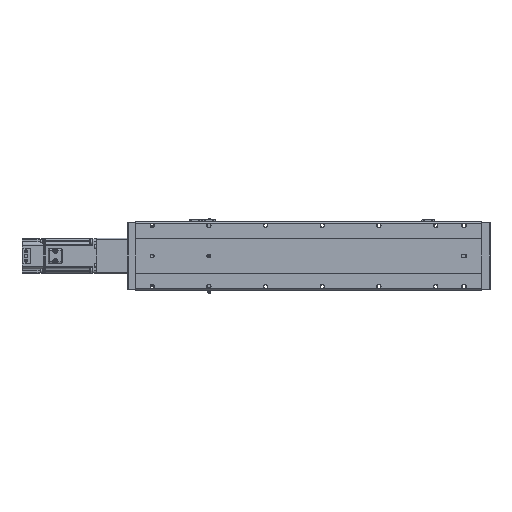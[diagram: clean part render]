
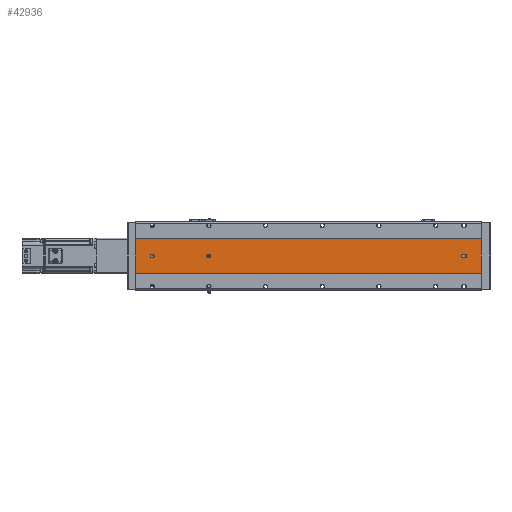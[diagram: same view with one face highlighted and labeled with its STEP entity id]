
A CAD part, front view. The second image highlights one B-rep face of the part: STEP entity #42936.
In plain terms, the highlighted planar face has unit normal (0, -1, 0).
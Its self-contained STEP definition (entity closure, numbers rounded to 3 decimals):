
#7 = CIRCLE ( 'NONE', #81715, 3.5 ) ;
#399 = VERTEX_POINT ( 'NONE', #10060 ) ;
#404 = CARTESIAN_POINT ( 'NONE',  ( -39.892, -52.848, 481. ) ) ;
#1712 = EDGE_LOOP ( 'NONE', ( #80642, #3643, #79200, #61816 ) ) ;
#1776 = CIRCLE ( 'NONE', #70148, 3.5 ) ;
#2714 = CARTESIAN_POINT ( 'NONE',  ( -36.392, -52.848, 30. ) ) ;
#3398 = VERTEX_POINT ( 'NONE', #87172 ) ;
#3643 = ORIENTED_EDGE ( 'NONE', *, *, #70327, .F. ) ;
#3672 = EDGE_CURVE ( 'NONE', #3398, #27957, #27368, .T. ) ;
#4364 = CARTESIAN_POINT ( 'NONE',  ( -69.892, -52.848, 0. ) ) ;
#4441 = EDGE_LOOP ( 'NONE', ( #32677, #26044 ) ) ;
#4488 = EDGE_CURVE ( 'NONE', #59237, #86013, #25150, .T. ) ;
#5213 = ORIENTED_EDGE ( 'NONE', *, *, #27365, .T. ) ;
#5972 = AXIS2_PLACEMENT_3D ( 'NONE', #24501, #31936, #11531 ) ;
#6841 = VECTOR ( 'NONE', #46463, 1000. ) ;
#9239 = VERTEX_POINT ( 'NONE', #48050 ) ;
#9332 = EDGE_CURVE ( 'NONE', #70112, #79529, #1776, .T. ) ;
#9807 = CARTESIAN_POINT ( 'NONE',  ( -36.392, -52.848, 611. ) ) ;
#10060 = CARTESIAN_POINT ( 'NONE',  ( -39.892, -52.848, 477.5 ) ) ;
#10399 = DIRECTION ( 'NONE',  ( 0., 0., 1. ) ) ;
#10614 = CARTESIAN_POINT ( 'NONE',  ( -43.392, -52.848, 32. ) ) ;
#11250 = VECTOR ( 'NONE', #25434, 1000. ) ;
#11328 = FACE_BOUND ( 'NONE', #69102, .T. ) ;
#11531 = DIRECTION ( 'NONE',  ( 0., 0., 1. ) ) ;
#14436 = DIRECTION ( 'NONE',  ( 0., 0., 1. ) ) ;
#14559 = CIRCLE ( 'NONE', #5972, 3.5 ) ;
#15359 = LINE ( 'NONE', #77047, #73415 ) ;
#17153 = EDGE_CURVE ( 'NONE', #59237, #27902, #15359, .T. ) ;
#18253 = ORIENTED_EDGE ( 'NONE', *, *, #3672, .T. ) ;
#18327 = DIRECTION ( 'NONE',  ( 0., 1., 0. ) ) ;
#18888 = FACE_OUTER_BOUND ( 'NONE', #1712, .T. ) ;
#21888 = VECTOR ( 'NONE', #38322, 1000. ) ;
#23364 = CARTESIAN_POINT ( 'NONE',  ( -69.892, -52.848, 0. ) ) ;
#23690 = LINE ( 'NONE', #23364, #55901 ) ;
#23733 = VERTEX_POINT ( 'NONE', #43260 ) ;
#24024 = LINE ( 'NONE', #9807, #21888 ) ;
#24201 = FACE_BOUND ( 'NONE', #4441, .T. ) ;
#24501 = CARTESIAN_POINT ( 'NONE',  ( -39.892, -52.848, 481. ) ) ;
#25150 = LINE ( 'NONE', #46192, #6841 ) ;
#25434 = DIRECTION ( 'NONE',  ( 0., 0., -1. ) ) ;
#26033 = CARTESIAN_POINT ( 'NONE',  ( -9.892, -52.848, 0. ) ) ;
#26044 = ORIENTED_EDGE ( 'NONE', *, *, #55386, .T. ) ;
#27365 = EDGE_CURVE ( 'NONE', #82463, #64780, #24024, .T. ) ;
#27368 = LINE ( 'NONE', #51556, #59495 ) ;
#27902 = VERTEX_POINT ( 'NONE', #78919 ) ;
#27957 = VERTEX_POINT ( 'NONE', #10614 ) ;
#29170 = CIRCLE ( 'NONE', #72116, 3.5 ) ;
#31393 = CARTESIAN_POINT ( 'NONE',  ( -69.892, -52.848, 611. ) ) ;
#31720 = VERTEX_POINT ( 'NONE', #26033 ) ;
#31936 = DIRECTION ( 'NONE',  ( 0., 1., 0. ) ) ;
#32677 = ORIENTED_EDGE ( 'NONE', *, *, #50895, .T. ) ;
#35791 = DIRECTION ( 'NONE',  ( 1., 0., 0. ) ) ;
#36738 = ORIENTED_EDGE ( 'NONE', *, *, #72561, .T. ) ;
#37736 = DIRECTION ( 'NONE',  ( 0., 1., 0. ) ) ;
#37757 = CARTESIAN_POINT ( 'NONE',  ( -36.392, -52.848, 32. ) ) ;
#37803 = CARTESIAN_POINT ( 'NONE',  ( -39.892, -52.848, 581. ) ) ;
#38322 = DIRECTION ( 'NONE',  ( 0., 0., -1. ) ) ;
#38956 = DIRECTION ( 'NONE',  ( 0., 0., 1. ) ) ;
#39746 = EDGE_LOOP ( 'NONE', ( #18253, #62265, #5213, #58771, #36738 ) ) ;
#41472 = AXIS2_PLACEMENT_3D ( 'NONE', #88788, #68307, #74069 ) ;
#42741 = ORIENTED_EDGE ( 'NONE', *, *, #9332, .T. ) ;
#42936 = ADVANCED_FACE ( 'NONE', ( #79102, #24201, #11328, #18888 ), #65678, .F. ) ;
#43260 = CARTESIAN_POINT ( 'NONE',  ( -39.892, -52.848, 484.5 ) ) ;
#44321 = DIRECTION ( 'NONE',  ( 1., 0., 0. ) ) ;
#44576 = EDGE_CURVE ( 'NONE', #86013, #31720, #23690, .T. ) ;
#44678 = DIRECTION ( 'NONE',  ( 0., 1., 0. ) ) ;
#45003 = DIRECTION ( 'NONE',  ( 0., 0., 1. ) ) ;
#46192 = CARTESIAN_POINT ( 'NONE',  ( -69.892, -52.848, 611. ) ) ;
#46463 = DIRECTION ( 'NONE',  ( 0., 0., -1. ) ) ;
#46870 = DIRECTION ( 'NONE',  ( 0., 1., 0. ) ) ;
#48050 = CARTESIAN_POINT ( 'NONE',  ( -39.892, -52.848, 26.5 ) ) ;
#50895 = EDGE_CURVE ( 'NONE', #399, #23733, #55096, .T. ) ;
#51556 = CARTESIAN_POINT ( 'NONE',  ( -43.392, -52.848, 611. ) ) ;
#52036 = AXIS2_PLACEMENT_3D ( 'NONE', #31393, #37736, #85863 ) ;
#52604 = EDGE_CURVE ( 'NONE', #27957, #82463, #29170, .T. ) ;
#54363 = CARTESIAN_POINT ( 'NONE',  ( -69.892, -52.848, 611. ) ) ;
#55096 = CIRCLE ( 'NONE', #79511, 3.5 ) ;
#55386 = EDGE_CURVE ( 'NONE', #23733, #399, #14559, .T. ) ;
#55901 = VECTOR ( 'NONE', #44321, 1000. ) ;
#58771 = ORIENTED_EDGE ( 'NONE', *, *, #68184, .T. ) ;
#59237 = VERTEX_POINT ( 'NONE', #54363 ) ;
#59495 = VECTOR ( 'NONE', #10399, 1000. ) ;
#59823 = CARTESIAN_POINT ( 'NONE',  ( -39.892, -52.848, 32. ) ) ;
#61816 = ORIENTED_EDGE ( 'NONE', *, *, #4488, .T. ) ;
#62265 = ORIENTED_EDGE ( 'NONE', *, *, #52604, .T. ) ;
#63256 = CARTESIAN_POINT ( 'NONE',  ( -39.892, -52.848, 577.5 ) ) ;
#64488 = CIRCLE ( 'NONE', #41472, 3.5 ) ;
#64780 = VERTEX_POINT ( 'NONE', #2714 ) ;
#65290 = ORIENTED_EDGE ( 'NONE', *, *, #74289, .T. ) ;
#65678 = PLANE ( 'NONE',  #52036 ) ;
#68184 = EDGE_CURVE ( 'NONE', #64780, #9239, #7, .T. ) ;
#68307 = DIRECTION ( 'NONE',  ( 0., 1., 0. ) ) ;
#69102 = EDGE_LOOP ( 'NONE', ( #42741, #65290 ) ) ;
#69620 = CARTESIAN_POINT ( 'NONE',  ( -9.892, -52.848, 611. ) ) ;
#70112 = VERTEX_POINT ( 'NONE', #63256 ) ;
#70148 = AXIS2_PLACEMENT_3D ( 'NONE', #37803, #18327, #45003 ) ;
#70327 = EDGE_CURVE ( 'NONE', #27902, #31720, #86578, .T. ) ;
#72116 = AXIS2_PLACEMENT_3D ( 'NONE', #59823, #86653, #80068 ) ;
#72561 = EDGE_CURVE ( 'NONE', #9239, #3398, #64488, .T. ) ;
#73415 = VECTOR ( 'NONE', #35791, 1000. ) ;
#74069 = DIRECTION ( 'NONE',  ( 0., 0., 1. ) ) ;
#74289 = EDGE_CURVE ( 'NONE', #79529, #70112, #78382, .T. ) ;
#77047 = CARTESIAN_POINT ( 'NONE',  ( -69.892, -52.848, 611. ) ) ;
#78382 = CIRCLE ( 'NONE', #81419, 3.5 ) ;
#78919 = CARTESIAN_POINT ( 'NONE',  ( -9.892, -52.848, 611. ) ) ;
#79102 = FACE_BOUND ( 'NONE', #39746, .T. ) ;
#79200 = ORIENTED_EDGE ( 'NONE', *, *, #17153, .F. ) ;
#79511 = AXIS2_PLACEMENT_3D ( 'NONE', #404, #83389, #89154 ) ;
#79529 = VERTEX_POINT ( 'NONE', #84402 ) ;
#80068 = DIRECTION ( 'NONE',  ( 0., 0., 1. ) ) ;
#80204 = CARTESIAN_POINT ( 'NONE',  ( -39.892, -52.848, 30. ) ) ;
#80642 = ORIENTED_EDGE ( 'NONE', *, *, #44576, .T. ) ;
#81419 = AXIS2_PLACEMENT_3D ( 'NONE', #88156, #46870, #14436 ) ;
#81715 = AXIS2_PLACEMENT_3D ( 'NONE', #80204, #44678, #38956 ) ;
#82463 = VERTEX_POINT ( 'NONE', #37757 ) ;
#83389 = DIRECTION ( 'NONE',  ( 0., 1., 0. ) ) ;
#84402 = CARTESIAN_POINT ( 'NONE',  ( -39.892, -52.848, 584.5 ) ) ;
#85863 = DIRECTION ( 'NONE',  ( 0., 0., 1. ) ) ;
#86013 = VERTEX_POINT ( 'NONE', #4364 ) ;
#86578 = LINE ( 'NONE', #69620, #11250 ) ;
#86653 = DIRECTION ( 'NONE',  ( 0., 1., 0. ) ) ;
#87172 = CARTESIAN_POINT ( 'NONE',  ( -43.392, -52.848, 30. ) ) ;
#88156 = CARTESIAN_POINT ( 'NONE',  ( -39.892, -52.848, 581. ) ) ;
#88788 = CARTESIAN_POINT ( 'NONE',  ( -39.892, -52.848, 30. ) ) ;
#89154 = DIRECTION ( 'NONE',  ( 0., 0., 1. ) ) ;
